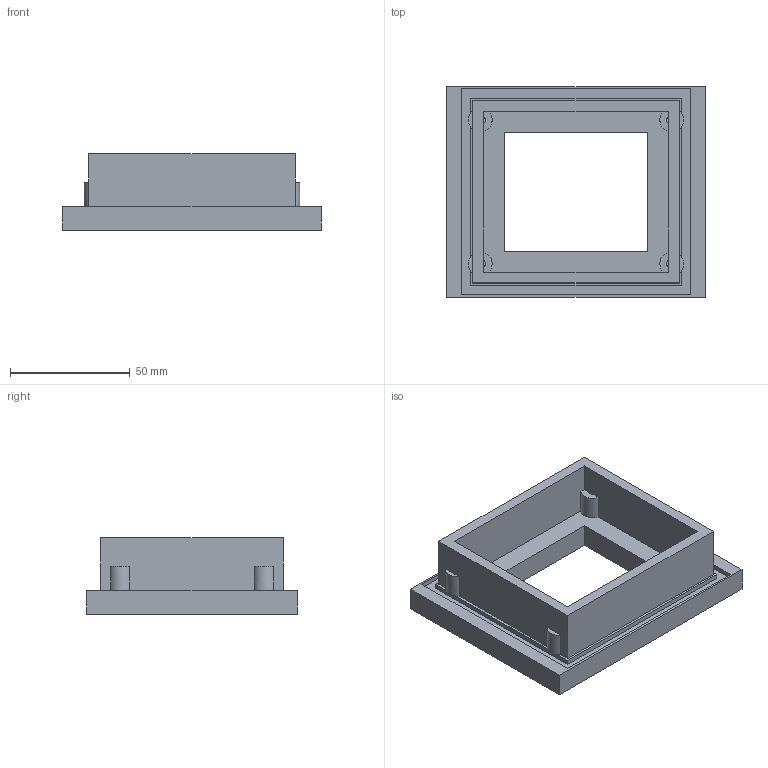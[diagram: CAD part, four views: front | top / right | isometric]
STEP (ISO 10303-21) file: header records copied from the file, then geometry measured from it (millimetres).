
FILE_DESCRIPTION(('Open CASCADE Model'),'2;1');
FILE_NAME('Open CASCADE Shape Model','2026-09-10T23:36:50',('Author'),( 'Open CASCADE'),'Open CASCADE STEP processor 7.9','Open CASCADE 7.9' ,'Unknown');
FILE_SCHEMA(('AUTOMOTIVE_DESIGN { 1 0 10303 214 1 1 1 1 }'));
Length unit declared in the file: millimetre
Products named in the file (1): Open CASCADE STEP translator 7.9 10
Bounding box: 108 x 88 x 32 mm (x, y, z)
Volume: 93882.4 mm3; surface area: 34228.3 mm2
Topology: 1 solids, 1 shells, 61 faces, 160 edges, 104 vertices
Faces by surface type: plane 49, cylinder 12
Entity records: 3872 total; most frequent: CARTESIAN_POINT 838, DIRECTION 504, ORIENTED_EDGE 320, PCURVE 320, DEFINITIONAL_REPRESENTATION 320, LINE 296, VECTOR 296, EDGE_CURVE 160
